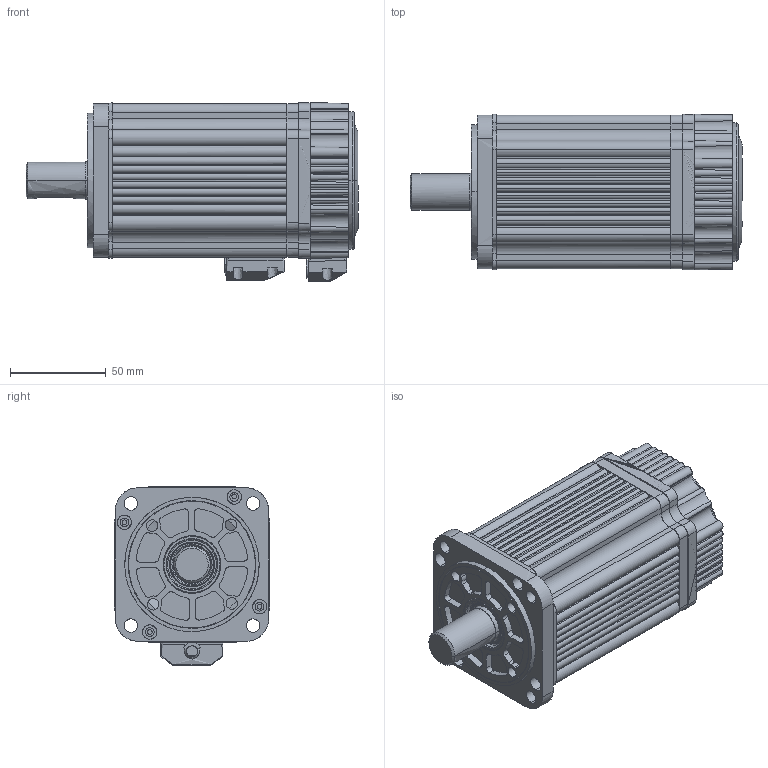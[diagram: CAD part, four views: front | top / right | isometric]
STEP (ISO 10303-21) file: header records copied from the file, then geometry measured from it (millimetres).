
FILE_DESCRIPTION (( 'STEP AP203' ), '1' );
FILE_NAME ('EMJ-08(APB,AFB,AFD,DFD)（without holding brake）.STEP', '2020-03-30T02:18:48', ( '' ), ( '' ), 'SwSTEP 2.0', 'SolidWorks 2018', '' );
FILE_SCHEMA (( 'CONFIG_CONTROL_DESIGN' ));
Length unit declared in the file: millimetre
Products named in the file (1): EMJ-08(APB,AFB,AFD,DFD)£¨without holding brake£©
Bounding box: 173 x 81.2 x 93.16 mm (x, y, z)
Surface area: 76933.9 mm2 (no closed solid volume)
Topology: 0 solids, 6 shells, 575 faces, 1800 edges, 1227 vertices
Faces by surface type: bspline 575
Entity records: 24299 total; most frequent: CARTESIAN_POINT 14575, ORIENTED_EDGE 3243, EDGE_CURVE 1798, B_SPLINE_CURVE_WITH_KNOTS 1269, VERTEX_POINT 1227, EDGE_LOOP 668, ADVANCED_FACE 575, FACE_OUTER_BOUND 575
